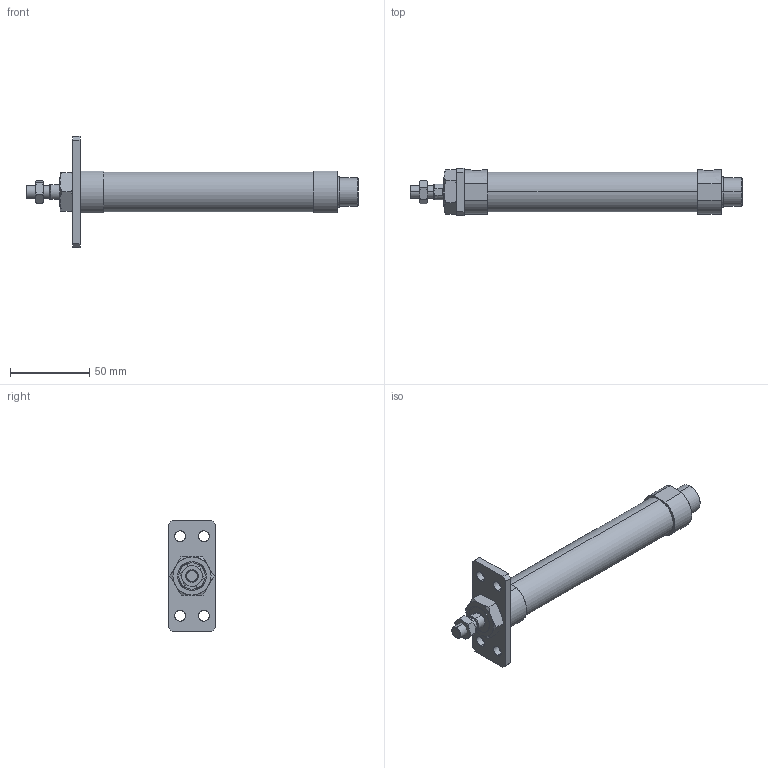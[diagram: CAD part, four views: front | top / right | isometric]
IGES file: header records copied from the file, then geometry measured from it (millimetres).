
Start section: SolidWorks IGES file using analytic representation for surfaces
Global section: file name: C:\Users\Toshiba\Desktop\J#2-20-100-A.IGS; native system: SolidWorks 2014; preprocessor: SolidWorks 2014; author: Toshiba; date: 160308.150105; units: millimetre
Bounding box: 209 x 30 x 70 mm (x, y, z)
Surface area: 24140 mm2 (no closed solid volume)
Topology: 0 solids, 0 shells, 112 faces, 2028 edges, 2028 vertices
Faces by surface type: bspline 70, revolution 42
